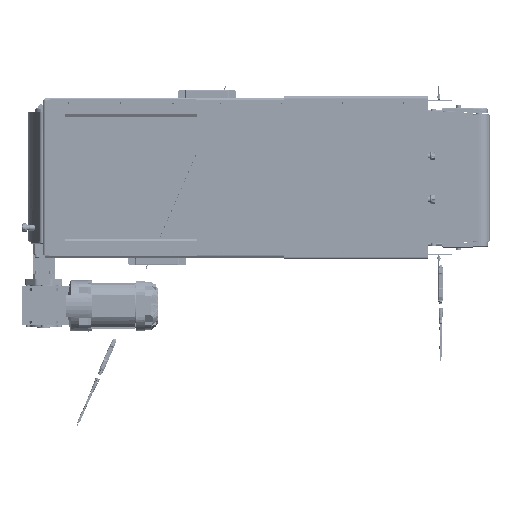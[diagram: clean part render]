
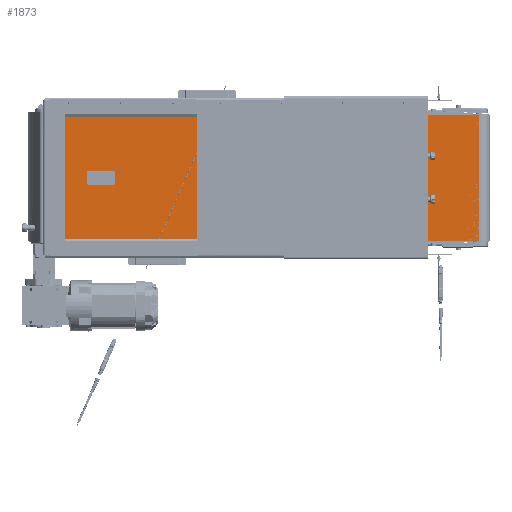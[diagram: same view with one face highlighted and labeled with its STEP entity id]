
A CAD part, front view. The second image highlights one B-rep face of the part: STEP entity #1873.
In plain terms, the highlighted planar face has unit normal (0, -1, 0) as drawn and (0, 1, 0) by its records, which use the part's own axes.
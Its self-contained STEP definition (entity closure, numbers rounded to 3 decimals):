
#1873 = ADVANCED_FACE ( 'NONE', ( #227049 ), #68398, .F. ) ;
#9356 = ORIENTED_EDGE ( 'NONE', *, *, #113110, .T. ) ;
#27132 = CARTESIAN_POINT ( 'NONE',  ( 500.1, 24.9, -279.286 ) ) ;
#30094 = DIRECTION ( 'NONE',  ( 0., 0., -1. ) ) ;
#30843 = CARTESIAN_POINT ( 'NONE',  ( 500.1, 24.9, -279.286 ) ) ;
#43232 = CARTESIAN_POINT ( 'NONE',  ( 500.1, 24.9, 10.714 ) ) ;
#59617 = VECTOR ( 'NONE', #183113, 1000. ) ;
#60026 = CARTESIAN_POINT ( 'NONE',  ( 500.1, 24.9, 10.714 ) ) ;
#68398 = PLANE ( 'NONE',  #79219 ) ;
#72175 = CARTESIAN_POINT ( 'NONE',  ( 500.1, 24.9, 10.714 ) ) ;
#79187 = DIRECTION ( 'NONE',  ( 0., 0., -1. ) ) ;
#79219 = AXIS2_PLACEMENT_3D ( 'NONE', #72175, #146504, #30094 ) ;
#95286 = ORIENTED_EDGE ( 'NONE', *, *, #241850, .F. ) ;
#108497 = EDGE_LOOP ( 'NONE', ( #9356, #230948, #95286, #214972 ) ) ;
#112740 = VERTEX_POINT ( 'NONE', #153891 ) ;
#113110 = EDGE_CURVE ( 'NONE', #252715, #161855, #184359, .T. ) ;
#118459 = CARTESIAN_POINT ( 'NONE',  ( -500.1, 24.9, -279.286 ) ) ;
#121262 = DIRECTION ( 'NONE',  ( -1., 0., 0. ) ) ;
#124054 = CARTESIAN_POINT ( 'NONE',  ( -500.1, 24.9, 10.714 ) ) ;
#124358 = VECTOR ( 'NONE', #121262, 1000. ) ;
#142258 = VERTEX_POINT ( 'NONE', #124054 ) ;
#142362 = EDGE_CURVE ( 'NONE', #142258, #161855, #145738, .T. ) ;
#145738 = LINE ( 'NONE', #223729, #250000 ) ;
#146504 = DIRECTION ( 'NONE',  ( 0., -1., 0. ) ) ;
#153891 = CARTESIAN_POINT ( 'NONE',  ( 500.1, 24.9, 10.714 ) ) ;
#161855 = VERTEX_POINT ( 'NONE', #118459 ) ;
#167388 = DIRECTION ( 'NONE',  ( 0., 0., -1. ) ) ;
#178986 = LINE ( 'NONE', #60026, #201251 ) ;
#183113 = DIRECTION ( 'NONE',  ( -1., 0., 0. ) ) ;
#184359 = LINE ( 'NONE', #27132, #59617 ) ;
#201251 = VECTOR ( 'NONE', #79187, 1000. ) ;
#214972 = ORIENTED_EDGE ( 'NONE', *, *, #223285, .T. ) ;
#218415 = LINE ( 'NONE', #43232, #124358 ) ;
#223285 = EDGE_CURVE ( 'NONE', #112740, #252715, #178986, .T. ) ;
#223729 = CARTESIAN_POINT ( 'NONE',  ( -500.1, 24.9, 10.714 ) ) ;
#227049 = FACE_OUTER_BOUND ( 'NONE', #108497, .T. ) ;
#230948 = ORIENTED_EDGE ( 'NONE', *, *, #142362, .F. ) ;
#241850 = EDGE_CURVE ( 'NONE', #112740, #142258, #218415, .T. ) ;
#250000 = VECTOR ( 'NONE', #167388, 1000. ) ;
#252715 = VERTEX_POINT ( 'NONE', #30843 ) ;
